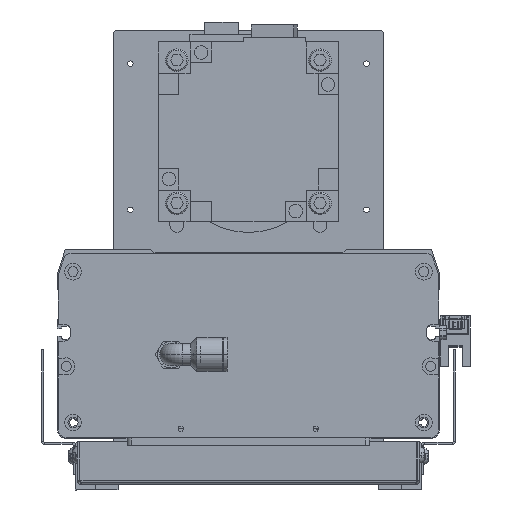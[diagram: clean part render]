
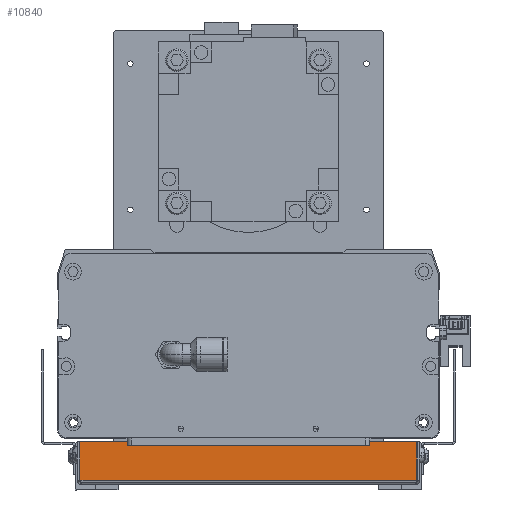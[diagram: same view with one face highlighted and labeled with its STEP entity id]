
A CAD part, front view. The second image highlights one B-rep face of the part: STEP entity #10840.
In plain terms, the highlighted planar face has unit normal (0, -1, 0) as drawn and (0, 0, 1) by its records, which use the part's own axes.
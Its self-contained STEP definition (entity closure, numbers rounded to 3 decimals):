
#1649 = EDGE_LOOP ( 'NONE', ( #55581, #58091, #53764, #8716 ) ) ;
#1889 = AXIS2_PLACEMENT_3D ( 'NONE', #32856, #5165, #19665 ) ;
#2050 = CARTESIAN_POINT ( 'NONE',  ( 65.667, 71.969, 179.832 ) ) ;
#3106 = CARTESIAN_POINT ( 'NONE',  ( 143.776, 71.969, 179.832 ) ) ;
#4236 = CARTESIAN_POINT ( 'NONE',  ( -84.133, 71.969, 179.832 ) ) ;
#4845 = EDGE_CURVE ( 'NONE', #13090, #10844, #13307, .T. ) ;
#5165 = DIRECTION ( 'NONE',  ( 0., 0., -1. ) ) ;
#6499 = VERTEX_POINT ( 'NONE', #2050 ) ;
#7746 = DIRECTION ( 'NONE',  ( 1., 0., 0. ) ) ;
#8716 = ORIENTED_EDGE ( 'NONE', *, *, #22295, .F. ) ;
#10840 = ADVANCED_FACE ( 'NONE', ( #15906 ), #37291, .F. ) ;
#10844 = VERTEX_POINT ( 'NONE', #51027 ) ;
#11398 = VECTOR ( 'NONE', #11927, 1000. ) ;
#11927 = DIRECTION ( 'NONE',  ( 0., -1., 0. ) ) ;
#13090 = VERTEX_POINT ( 'NONE', #4236 ) ;
#13200 = EDGE_CURVE ( 'NONE', #53377, #10844, #14983, .T. ) ;
#13307 = LINE ( 'NONE', #34744, #55254 ) ;
#13757 = VECTOR ( 'NONE', #7746, 1000. ) ;
#14983 = LINE ( 'NONE', #51132, #32371 ) ;
#15906 = FACE_OUTER_BOUND ( 'NONE', #1649, .T. ) ;
#19665 = DIRECTION ( 'NONE',  ( 0., 1., 0. ) ) ;
#22295 = EDGE_CURVE ( 'NONE', #6499, #53377, #35256, .T. ) ;
#24362 = CARTESIAN_POINT ( 'NONE',  ( 65.667, 54.706, 179.832 ) ) ;
#32371 = VECTOR ( 'NONE', #37590, 1000. ) ;
#32856 = CARTESIAN_POINT ( 'NONE',  ( 143.776, 73.906, 179.832 ) ) ;
#34744 = CARTESIAN_POINT ( 'NONE',  ( -84.133, 71.969, 179.832 ) ) ;
#35256 = LINE ( 'NONE', #38406, #11398 ) ;
#37291 = PLANE ( 'NONE',  #1889 ) ;
#37590 = DIRECTION ( 'NONE',  ( -1., 0., 0. ) ) ;
#38406 = CARTESIAN_POINT ( 'NONE',  ( 65.667, 71.969, 179.832 ) ) ;
#39277 = EDGE_CURVE ( 'NONE', #13090, #6499, #54254, .T. ) ;
#39712 = DIRECTION ( 'NONE',  ( 0., -1., 0. ) ) ;
#51027 = CARTESIAN_POINT ( 'NONE',  ( -84.133, 54.706, 179.832 ) ) ;
#51132 = CARTESIAN_POINT ( 'NONE',  ( 65.767, 54.706, 179.832 ) ) ;
#53377 = VERTEX_POINT ( 'NONE', #24362 ) ;
#53764 = ORIENTED_EDGE ( 'NONE', *, *, #13200, .F. ) ;
#54254 = LINE ( 'NONE', #3106, #13757 ) ;
#55254 = VECTOR ( 'NONE', #39712, 1000. ) ;
#55581 = ORIENTED_EDGE ( 'NONE', *, *, #39277, .F. ) ;
#58091 = ORIENTED_EDGE ( 'NONE', *, *, #4845, .T. ) ;
